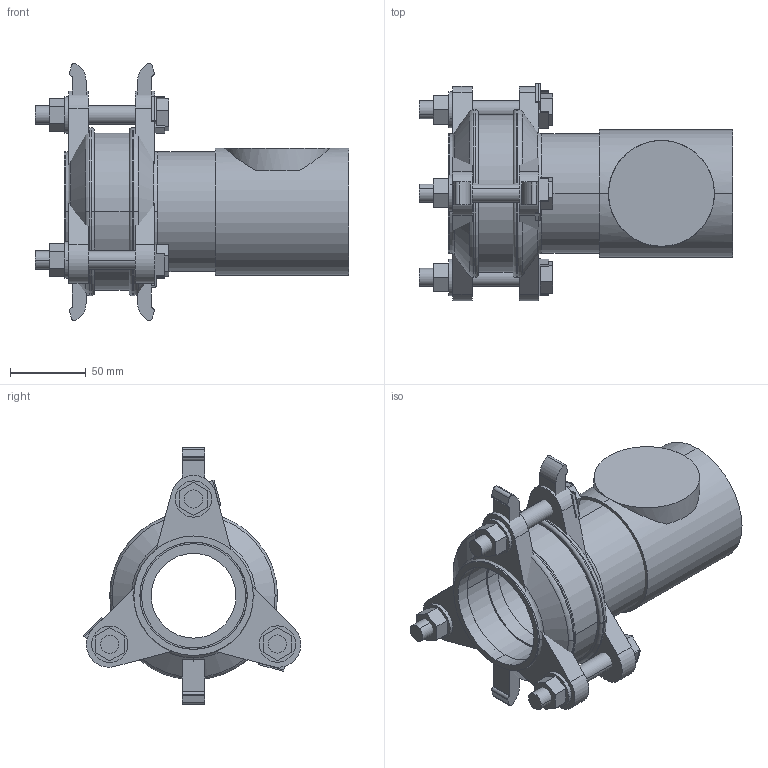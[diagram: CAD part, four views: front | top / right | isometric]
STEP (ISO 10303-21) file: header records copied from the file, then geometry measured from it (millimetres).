
FILE_DESCRIPTION(('STEP AP214'),'1');
FILE_NAME('HDA1003030 DN 50 axial.STP','2015-02-06T09:58:19',(' '),(' '),'Spatial InterOp 3D',' ',' ');
FILE_SCHEMA(('automotive_design'));
Length unit declared in the file: millimetre
Products named in the file (34): 3D-Objekt
Bounding box: 207 x 143.81 x 170 mm (x, y, z)
Volume: 631561 mm3; surface area: 223005.3 mm2
Topology: 34 solids, 34 shells, 277 faces, 618 edges, 410 vertices
Faces by surface type: plane 182, cylinder 75, torus 12, cone 8
Entity records: 10916 total; most frequent: CARTESIAN_POINT 1535, DIRECTION 1436, ORIENTED_EDGE 1236, EDGE_CURVE 618, AXIS2_PLACEMENT_3D 511, LINE 414, VECTOR 414, VERTEX_POINT 410
